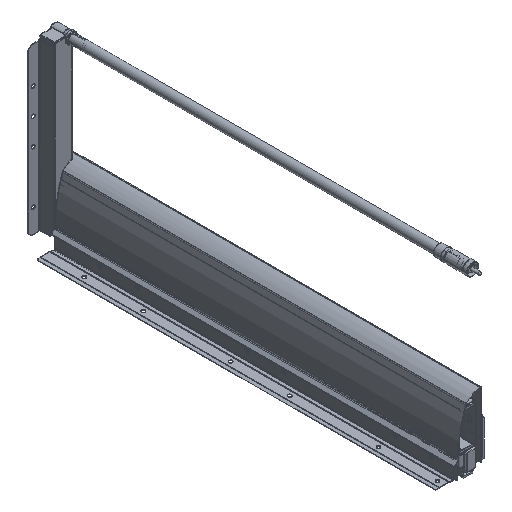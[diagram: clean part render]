
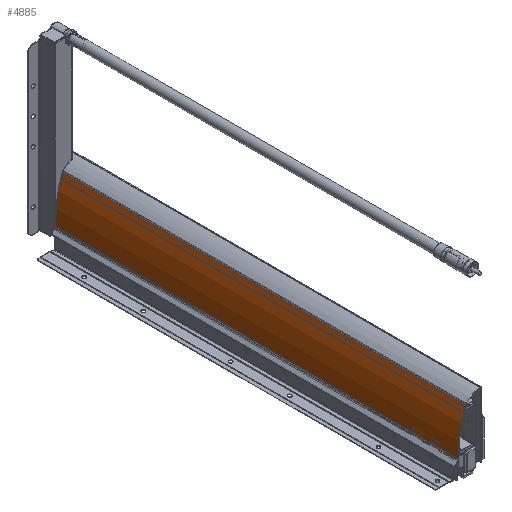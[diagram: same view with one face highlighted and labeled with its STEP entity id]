
A CAD part, isometric view. The second image highlights one B-rep face of the part: STEP entity #4885.
In plain terms, the highlighted cylindrical face has radius 160 mm (diameter 320 mm), a partial arc.
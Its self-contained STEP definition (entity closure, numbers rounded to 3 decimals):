
#4885 = ADVANCED_FACE( '', ( #10168 ), #10169, .T. );
#10168 = FACE_OUTER_BOUND( '', #19707, .T. );
#10169 = CYLINDRICAL_SURFACE( '', #19708, 160. );
#19707 = EDGE_LOOP( '', ( #33616, #33617, #33618, #33619 ) );
#19708 = AXIS2_PLACEMENT_3D( '', #33620, #33621, #33622 );
#33616 = ORIENTED_EDGE( '', *, *, #41327, .F. );
#33617 = ORIENTED_EDGE( '', *, *, #37450, .F. );
#33618 = ORIENTED_EDGE( '', *, *, #38334, .F. );
#33619 = ORIENTED_EDGE( '', *, *, #41556, .T. );
#33620 = CARTESIAN_POINT( '', ( 142.5, -10., 18.574 ) );
#33621 = DIRECTION( '', ( 0., -1., 0. ) );
#33622 = DIRECTION( '', ( 0., 0., 1. ) );
#37450 = EDGE_CURVE( '', #43691, #43687, #43693, .T. );
#38334 = EDGE_CURVE( '', #45286, #43691, #45288, .T. );
#41327 = EDGE_CURVE( '', #43687, #49924, #49925, .T. );
#41556 = EDGE_CURVE( '', #45286, #49924, #50228, .T. );
#43687 = VERTEX_POINT( '', #52855 );
#43691 = VERTEX_POINT( '', #52860 );
#43693 = LINE( '', #52862, #52863 );
#45286 = VERTEX_POINT( '', #55634 );
#45288 = CIRCLE( '', #55636, 160. );
#49924 = VERTEX_POINT( '', #64095 );
#49925 = CIRCLE( '', #64096, 160. );
#50228 = LINE( '', #64681, #64682 );
#52855 = CARTESIAN_POINT( '', ( -17.492, 482., 16.97 ) );
#52860 = CARTESIAN_POINT( '', ( -17.492, -10., 16.97 ) );
#52862 = CARTESIAN_POINT( '', ( -17.492, -10., 16.97 ) );
#52863 = VECTOR( '', #69048, 1000. );
#55634 = CARTESIAN_POINT( '', ( -9.073, -10., 69.814 ) );
#55636 = AXIS2_PLACEMENT_3D( '', #70169, #70170, #70171 );
#64095 = CARTESIAN_POINT( '', ( -9.073, 482., 69.814 ) );
#64096 = AXIS2_PLACEMENT_3D( '', #73766, #73767, #73768 );
#64681 = CARTESIAN_POINT( '', ( -9.073, -10., 69.814 ) );
#64682 = VECTOR( '', #74040, 1000. );
#69048 = DIRECTION( '', ( 0., 1., 0. ) );
#70169 = CARTESIAN_POINT( '', ( 142.5, -10., 18.574 ) );
#70170 = DIRECTION( '', ( 0., -1., 0. ) );
#70171 = DIRECTION( '', ( 1., 0., 0. ) );
#73766 = CARTESIAN_POINT( '', ( 142.5, 482., 18.574 ) );
#73767 = DIRECTION( '', ( 0., 1., 0. ) );
#73768 = DIRECTION( '', ( 0., 0., 1. ) );
#74040 = DIRECTION( '', ( 0., 1., 0. ) );
